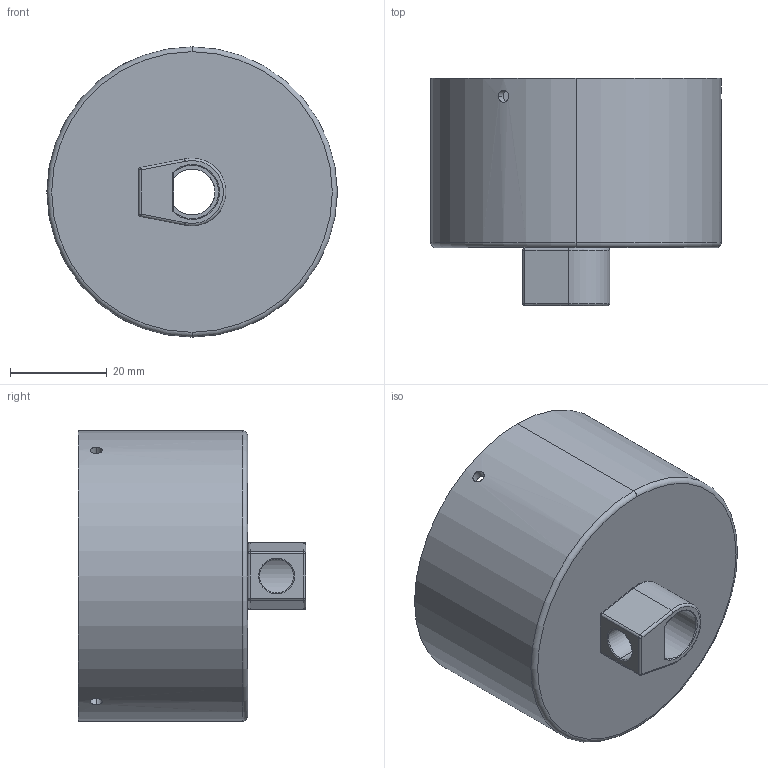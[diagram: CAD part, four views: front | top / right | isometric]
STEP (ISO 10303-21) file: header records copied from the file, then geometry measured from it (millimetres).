
FILE_DESCRIPTION (( 'STEP AP203' ), '1' );
FILE_NAME ('ACCANOPYTO004BC.STEP', '2023-09-14T07:15:46', ( '' ), ( '' ), 'SwSTEP 2.0', 'SolidWorks 2023', '' );
FILE_SCHEMA (( 'CONFIG_CONTROL_DESIGN' ));
Length unit declared in the file: millimetre
Products named in the file (4): WSCM2C0133-0700-00; ACCANOPYTO004BC; WSCM2A0130-0700-00; WSA5346-07-1-6----
Assembly tree (3 placements, depth 2):
  ACCANOPYTO004BC
    WSCM2A0130-0700-00
    WSA5346-07-1-6----
    WSCM2C0133-0700-00
Bounding box: 60 x 47 x 60 mm (x, y, z)
Volume: 23705.4 mm3; surface area: 24960 mm2
Topology: 3 solids, 3 shells, 88 faces, 209 edges, 124 vertices
Faces by surface type: cylinder 46, torus 16, plane 16, cone 6, sphere 4
Entity records: 3198 total; most frequent: CARTESIAN_POINT 701, DIRECTION 480, ORIENTED_EDGE 410, EDGE_CURVE 205, AXIS2_PLACEMENT_3D 203, VERTEX_POINT 124, CIRCLE 109, EDGE_LOOP 107
